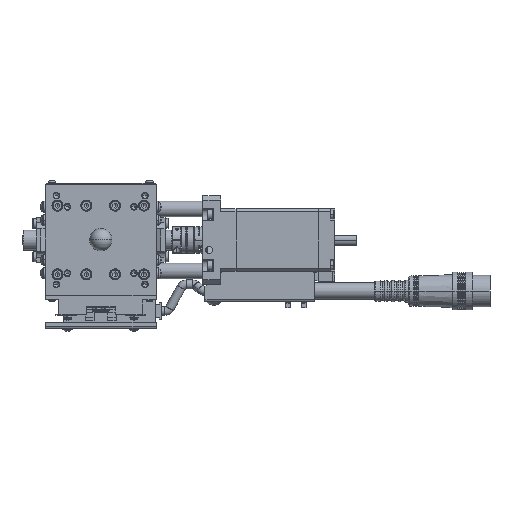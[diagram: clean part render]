
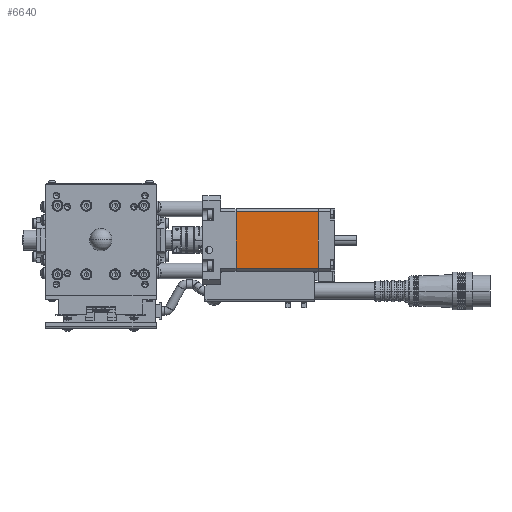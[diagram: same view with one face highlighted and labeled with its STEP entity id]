
A CAD part, top view. The second image highlights one B-rep face of the part: STEP entity #6640.
In plain terms, the highlighted planar face has unit normal (0, 0, 1).
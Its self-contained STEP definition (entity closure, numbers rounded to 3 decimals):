
#1184 = ORIENTED_EDGE ( 'NONE', *, *, #64093, .T. ) ;
#1933 = VERTEX_POINT ( 'NONE', #60845 ) ;
#2717 = VECTOR ( 'NONE', #23592, 1000. ) ;
#3549 = AXIS2_PLACEMENT_3D ( 'NONE', #41155, #10229, #61521 ) ;
#6640 = ADVANCED_FACE ( 'NONE', ( #28340 ), #41986, .T. ) ;
#6642 = VERTEX_POINT ( 'NONE', #47838 ) ;
#9330 = CARTESIAN_POINT ( 'NONE',  ( 105.5, -12.845, 22. ) ) ;
#9564 = EDGE_CURVE ( 'NONE', #6642, #29060, #66770, .T. ) ;
#10199 = EDGE_CURVE ( 'NONE', #74113, #6642, #49610, .T. ) ;
#10229 = DIRECTION ( 'NONE',  ( 0., 0., 1. ) ) ;
#10691 = DIRECTION ( 'NONE',  ( -1., 0., 0. ) ) ;
#10789 = CARTESIAN_POINT ( 'NONE',  ( 97.99, -12.845, 22. ) ) ;
#14351 = CARTESIAN_POINT ( 'NONE',  ( 61., -12.845, 22. ) ) ;
#20359 = VECTOR ( 'NONE', #58987, 1000. ) ;
#21062 = DIRECTION ( 'NONE',  ( -1., 0., 0. ) ) ;
#23592 = DIRECTION ( 'NONE',  ( 0., -1., 0. ) ) ;
#24760 = VECTOR ( 'NONE', #10691, 1000. ) ;
#25803 = LINE ( 'NONE', #68924, #24760 ) ;
#28340 = FACE_OUTER_BOUND ( 'NONE', #47705, .T. ) ;
#29060 = VERTEX_POINT ( 'NONE', #69958 ) ;
#33172 = EDGE_CURVE ( 'NONE', #74113, #1933, #25803, .T. ) ;
#33299 = LINE ( 'NONE', #14351, #20359 ) ;
#41155 = CARTESIAN_POINT ( 'NONE',  ( 105.5, -12.845, 22. ) ) ;
#41986 = PLANE ( 'NONE',  #3549 ) ;
#47705 = EDGE_LOOP ( 'NONE', ( #60042, #69252, #1184, #71222 ) ) ;
#47838 = CARTESIAN_POINT ( 'NONE',  ( 97.99, -12.845, 22. ) ) ;
#49524 = CARTESIAN_POINT ( 'NONE',  ( 97.99, 12.845, 22. ) ) ;
#49610 = LINE ( 'NONE', #10789, #2717 ) ;
#49807 = VECTOR ( 'NONE', #21062, 1000. ) ;
#58987 = DIRECTION ( 'NONE',  ( 0., -1., 0. ) ) ;
#60042 = ORIENTED_EDGE ( 'NONE', *, *, #10199, .F. ) ;
#60845 = CARTESIAN_POINT ( 'NONE',  ( 61., 12.845, 22. ) ) ;
#61521 = DIRECTION ( 'NONE',  ( 1., 0., 0. ) ) ;
#64093 = EDGE_CURVE ( 'NONE', #1933, #29060, #33299, .T. ) ;
#66770 = LINE ( 'NONE', #9330, #49807 ) ;
#68924 = CARTESIAN_POINT ( 'NONE',  ( 105.5, 12.845, 22. ) ) ;
#69252 = ORIENTED_EDGE ( 'NONE', *, *, #33172, .T. ) ;
#69958 = CARTESIAN_POINT ( 'NONE',  ( 61., -12.845, 22. ) ) ;
#71222 = ORIENTED_EDGE ( 'NONE', *, *, #9564, .F. ) ;
#74113 = VERTEX_POINT ( 'NONE', #49524 ) ;
